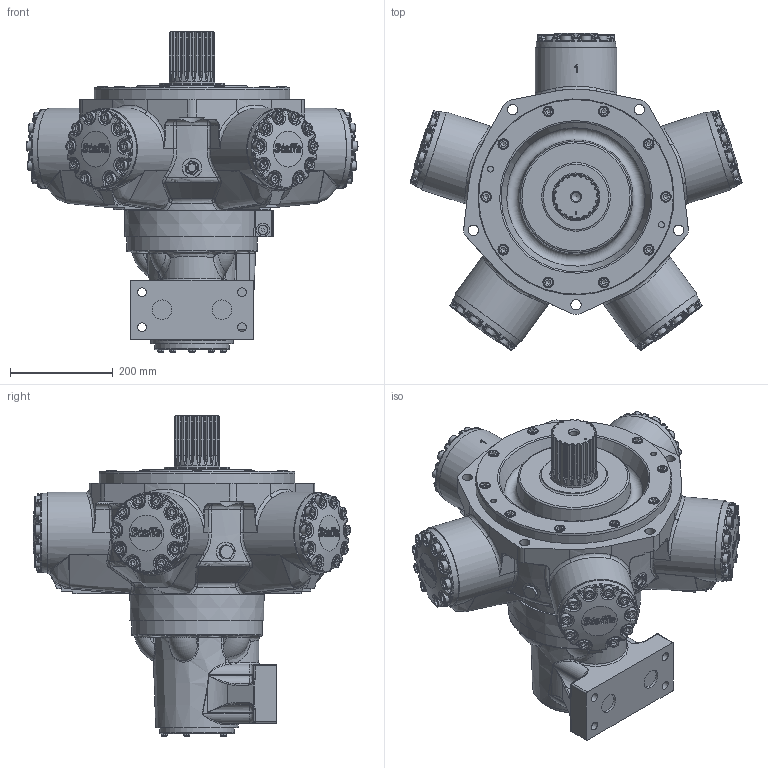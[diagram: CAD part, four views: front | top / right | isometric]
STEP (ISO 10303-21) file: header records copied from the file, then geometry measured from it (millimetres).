
FILE_DESCRIPTION(/* description */ (''),/* implementation_level */ '2;1');
FILE_NAME(/* name */ 'HMC200_P1_SM4_CS_70.stp',/* time_stamp */ '2025-06-20T08:49:31+01:00',/* author */ ('ccallanga'),/* organization */ (''),/* preprocessor_version */ 'ST-DEVELOPER v20',/* originating_system */ 'Autodesk Inventor 2024',/* authorisation */ '');
FILE_SCHEMA (('AUTOMOTIVE_DESIGN { 1 0 10303 214 3 1 1 }'));
Products named in the file (1): 017751 HMC200 Web Assembly_Simplify_1
Bounding box: 645.1 x 616.02 x 621.91 mm (x, y, z)
Volume: 50735502.6 mm3; surface area: 1317778.3 mm2
Topology: 1 solids, 1 shells, 4818 faces, 11801 edges, 7039 vertices
Faces by surface type: bspline 1709, plane 1233, cylinder 1084, torus 462, cone 202, sphere 128
Full cylindrical faces by diameter (mm): 2.2 x4, 4 x1, 4.134 x4, 5.5 x4, 6.5 x3, 7 x3, 9.4 x4, 11.328 x2, 11.913 x5, 12 x4, 12.7 x5, 16.51 x1, 17 x4, 17.323 x1, 19 x1, 19.05 x60, 20 x5, 20.637 x60, 23.825 x5, 25 x6, 25.4 x5, 26.92 x2, 28.75 x1, 38 x2, 38.1 x3, 87.889 x1, 88.837 x1, 92.964 x1, 127 x1, 146.05 x1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
Entity records: 241643 total; most frequent: CARTESIAN_POINT 136674, ORIENTED_EDGE 23178, DIRECTION 17067, EDGE_CURVE 11589, VERTEX_POINT 7039, AXIS2_PLACEMENT_3D 6782, EDGE_LOOP 5102, STYLED_ITEM 4819
